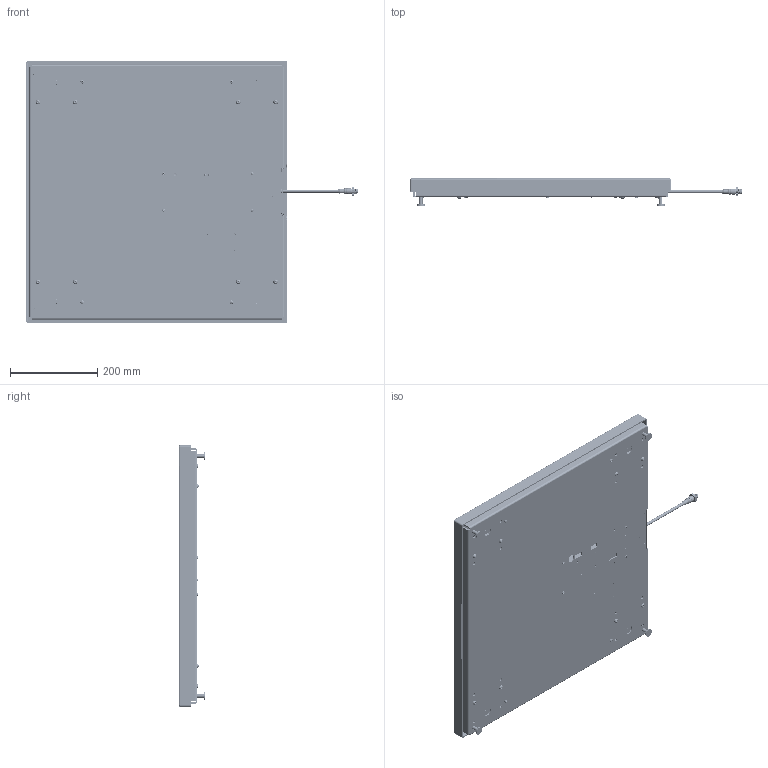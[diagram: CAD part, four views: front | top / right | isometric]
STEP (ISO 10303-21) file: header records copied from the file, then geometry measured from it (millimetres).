
FILE_DESCRIPTION (( 'STEP AP214' ), '1' );
FILE_NAME ('HI2424SBD-330.STEP', '2019-08-15T18:34:10', ( '' ), ( '' ), 'SwSTEP 2.0', 'SolidWorks 2017', '' );
FILE_SCHEMA (( 'AUTOMOTIVE_DESIGN' ));
Length unit declared in the file: millimetre
Products named in the file (55): socket button head cap screw_am_B18.3.4M - 6 x 1.0 x 20 SBHCS --N-A2.70; 5121-0013; 2815-0158_91780A133; 4815-0102; 0074879; 0074915_Modified By Hardy_Default<As Machined>; 2814-0098-0_90633A007; 0075293; 5119-0012; 0075172_A3, A4 & A5; 0514-0239-01-0; 0075294; socket head cap screw_am_B18.3.1M - 6 x 1.0 x 20 Hex SHCS -- 20NHX-A2.70; hex jam nut_ai_HJNUT 0.2500-20-D-N; 2817-0272-0_90402A146; 0075287_C2 CHIP; 0534-0470-02; 0074757_Modified By Hardy; 0075198; 0075200_93505A451; 6007-0055; 0075231_PBSH-150kg 600 X 600; 0075173_B5; pan cross head_ai_CR-PHMS 0.138-32x0.3125x0.3125-N; 0075175_84-227975; 0074918; 0530-0629-XX; 2807-0008; 0075290; 0075295; HI2424SBD-330; 0075174_5; 0074872; 2143-T004; 0018546; flat washer type a selected narrow_ai_Selected Narrow FW 0.125; 0075230_91780A198; 2143-T013; 0530-0628-01; 0067075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
Assembly tree (107 placements, depth 4):
  HI2424SBD-330
    0074904
      0074915_Modified By Hardy_Default<As Machined>
      0074918  x4
      0078239
    0075309
    0075175_84-227975  x4
      0075172_A3, A4 & A5
      0075174_5
      0075173_B5
    hex jam nut_ai_HJNUT 0.2500-20-D-N  x4
    0074757_Modified By Hardy
    0075198  x4
    0075200_93505A451  x4
    0075290
      0075233
      0018546  x4
      0075287_C2 CHIP
      0075295  x4
        0075294
        0075293
    pan cross head_ai_CR-PHMS 0.164-32x0.3125x0.3125-N-A2.70  x4
    0074880  x4
      0074872
      0074879
      0067075
      socket head cap screw_am_B18.3.1M - 6 x 1.0 x 20 Hex SHCS -- 20NHX-A2.70
    0075231_PBSH-150kg 600 X 600  x4
      0075230_91780A198
      0075232_80-001903
      flat head screw_ai_CR-FHMS 0.164-32x0.875x0.875-N-A2.70
      pan cross head_ai_CR-PHMS 0.164-32x0.3125x0.3125-N-A2.70
    socket button head cap screw_am_B18.3.4M - 6 x 1.0 x 20 SBHCS --N-A2.70  x8
    2814-0098-0_90633A007  x2
    0514-0239-01-0
    2817-0272-0_90402A146
    socket head cap screw_am_B18.3.1M - 4 x 0.7 x 8 Hex SHCS -- 8NHX-A2.70
    0535-0470-03
      0534-0470-02
      2807-0008
      5119-0012
      5121-0013
      4815-0102  x2
    2505-0012
    0530-0865-01-0
    2815-0158_91780A133  x4
    pan cross head_ai_CR-PHMS 0.138-32x0.375x0.375-N
    pan cross head_ai_CR-PHMS 0.138-32x0.3125x0.3125-N  x8
    6007-0055
    6032-0044
    2143-T004
    2143-T013
    flat washer type a selected narrow_ai_Selected Narrow FW 0.125
    2814-T011_90631A005
    0530-0628-01
    0530-0629-XX
Bounding box: 762.12 x 61.68 x 600 mm (x, y, z)
Volume: 3194329.6 mm3; surface area: 1943001.9 mm2
Topology: 229 solids, 244 shells, 12578 faces, 32804 edges, 21177 vertices
Faces by surface type: plane 7881, cylinder 2433, bspline 1144, cone 832, torus 232, sphere 56
Entity records: 383236 total; most frequent: CARTESIAN_POINT 91221, ORIENTED_EDGE 48142, DIRECTION 39667, EDGE_CURVE 24108, LINE 18041, VECTOR 18041, VERTEX_POINT 15820, AXIS2_PLACEMENT_3D 10813
